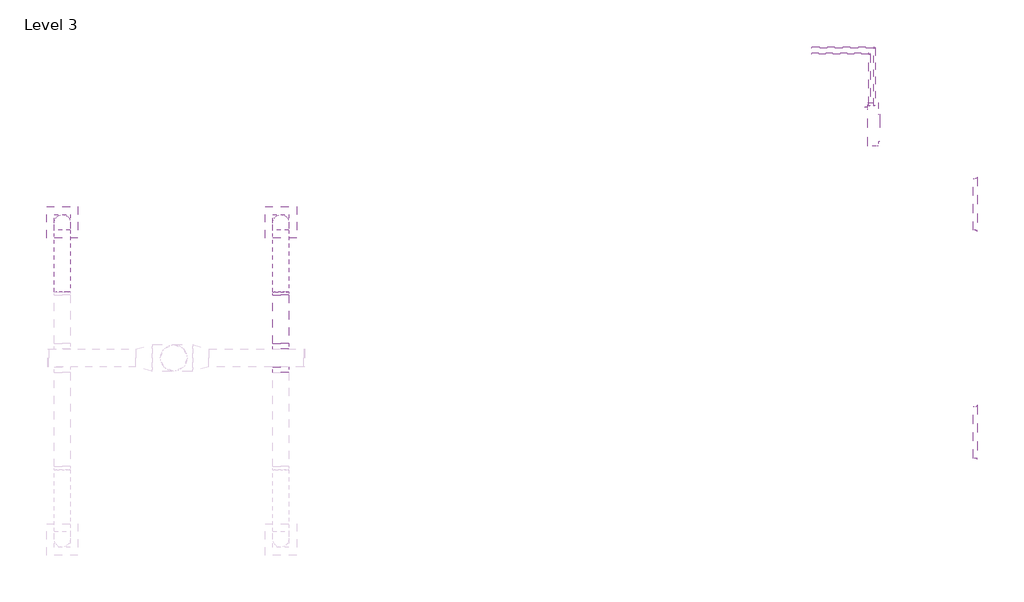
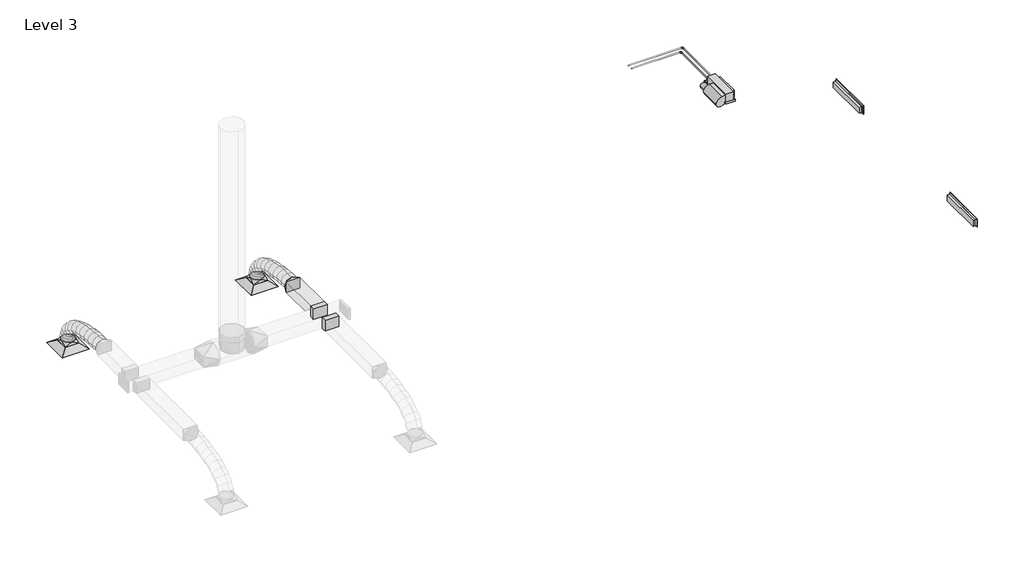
# One storey, part 2 of 2: 5 duct fittings, 4 air terminals, 4 pipe fittings, 4 pipe segments, 3 duct segments, 1 proxy.
"""IFC4 building model written with IfcOpenShell, lengths in millimetres."""

from ifc_helpers import new_model, si_unit, point, frame, frame_2d, origin, place, context, project, spatial, polyline, circle_curve, ellipse_curve, trimmed, segment, composite_curve, outline, extrude, transform, mapped, element, save
from ifc_brep_helpers import plane_surface, cylinder_surface, advanced_brep
from components import extract_grille_600_x_600_face_300_x_300_connection_2ef68f4f, extract_grille_600_x_600_face_300_x_300_connection_8a0e72a1, supply_diffuser_sidewall_standard_1200x300_380ab6ba, supply_diffuser_sidewall_standard_1200x300_04a8d683, fan_coil_unit_horizontal_basic_concealed_04_04d40ada, rectangular_takeoff_standard_6cc22b3a, rectangular_to_round_transition_angle_45_degree_641efff0, rectangular_to_round_transition_angle_45_degree_f64e0d1d, elbow_generic_standard_c06ac706, transition_generic_standard_b317fa81

model = new_model("IFC4")

# Units and contexts
model_context = context("Model", 3, world=origin())
ifc_project = project(units=[si_unit("LENGTHUNIT", "METRE", prefix="MILLI")], contexts=[model_context])

# Site, building, storey
site = spatial("IfcSite", under=ifc_project)
building = spatial("IfcBuilding", under=site)
storey = spatial("IfcBuildingStorey", under=building, Name="Level 3", Elevation=10795.0)

# Air terminals
placement = place(None, origin())
extract_grille_600_x_600_face_300_x_300_connection_shape = extract_grille_600_x_600_face_300_x_300_connection_2ef68f4f(model_context)
element("IfcAirTerminal", 1, ObjectType="Extract Grille : 600 x 600 Face 300 x 300 Connection", at=placement, inside=storey, context=model_context, shape_type="MappedRepresentation", body=[
    mapped(extract_grille_600_x_600_face_300_x_300_connection_shape, transform((-14175.3843533, 1324.0638639, 13795.0), x_axis=(1.0, 0.0, 0.0), y_axis=(0.0, 1.0, 0.0), z_axis=(0.0, 0.0, 1.0))),
])
extract_grille_600_x_600_face_300_x_300_connection_2_shape = extract_grille_600_x_600_face_300_x_300_connection_8a0e72a1(model_context)
element("IfcAirTerminal", 2, ObjectType="Extract Grille : 600 x 600 Face 300 x 300 Connection", at=placement, inside=storey, context=model_context, shape_type="MappedRepresentation", body=[
    mapped(extract_grille_600_x_600_face_300_x_300_connection_2_shape, transform((-9996.8271189, 1324.0638639, 13795.0), x_axis=(-1.0, 0.0, 0.0), y_axis=(0.0, -1.0, 0.0), z_axis=(0.0, 0.0, 1.0))),
])
supply_diffuser_sidewall_standard_1200x300_shape = supply_diffuser_sidewall_standard_1200x300_380ab6ba(model_context)
element("IfcAirTerminal", 3, ObjectType="Supply Diffuser - Sidewall : Standard 1200x300", at=placement, inside=storey, context=model_context, shape_type="MappedRepresentation", body=[
    mapped(supply_diffuser_sidewall_standard_1200x300_shape, transform((3315.8959701, 1666.6648144, 13295.0), x_axis=(0.0, -1.0000000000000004, 0.0), y_axis=(-1.0000000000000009, 0.0, 0.0), z_axis=(0.0, 0.0, -1.0000000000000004))),
])
supply_diffuser_sidewall_standard_1200x300_2_shape = supply_diffuser_sidewall_standard_1200x300_04a8d683(model_context)
element("IfcAirTerminal", 4, ObjectType="Supply Diffuser - Sidewall : Standard 1200x300", at=placement, inside=storey, context=model_context, shape_type="MappedRepresentation", body=[
    mapped(supply_diffuser_sidewall_standard_1200x300_2_shape, transform((3315.8959701, -2695.7858822, 13295.0), x_axis=(0.0, 1.0000000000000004, 0.0), y_axis=(1.0000000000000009, 0.0, 0.0), z_axis=(0.0, 0.0, -1.0000000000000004))),
])

# Proxy
fan_coil_unit_horizontal_basic_concealed_04_shape = fan_coil_unit_horizontal_basic_concealed_04_04d40ada(model_context)
element("IfcBuildingElementProxy", 5, Name="Fan Coil Unit - Horizontal Basic Concealed : 04", ObjectType="Fan Coil Unit - Horizontal Basic Concealed : 04", at=placement, inside=storey, context=model_context, shape_type="MappedRepresentation", body=[
    mapped(fan_coil_unit_horizontal_basic_concealed_04_shape, transform((1304.7163778, 3129.3894661, 13220.0), x_axis=(0.0, 1.0, 0.0), y_axis=(-1.0, 0.0, 0.0), z_axis=(0.0, 0.0, 1.0))),
])

# Duct fittings
rectangular_takeoff_standard_shape = rectangular_takeoff_standard_6cc22b3a(model_context)
element("IfcDuctFitting", 6, ObjectType="Rectangular Takeoff : Standard", at=placement, inside=storey, context=model_context, shape_type="MappedRepresentation", body=[
    mapped(rectangular_takeoff_standard_shape, transform((-9996.8271189, -1098.030611, 14595.0), x_axis=(0.0, 1.0, 0.0), y_axis=(-1.0, 0.0, 0.0), z_axis=(0.0, 0.0, 1.0))),
])
element("IfcDuctFitting", 7, ObjectType="Rectangular Takeoff : Standard", at=placement, inside=storey, context=model_context, shape_type="MappedRepresentation", body=[
    mapped(rectangular_takeoff_standard_shape, transform((-9996.8271189, -1448.030611, 14595.0), x_axis=(0.0, -1.0, 0.0), y_axis=(-1.0, 0.0, 0.0), z_axis=(0.0, 0.0, -1.0))),
])
rectangular_to_round_transition_angle_45_degree_shape = rectangular_to_round_transition_angle_45_degree_641efff0(model_context)
element("IfcDuctFitting", 8, ObjectType="Rectangular to Round Transition - Angle : 45 Degree", at=placement, inside=storey, context=model_context, shape_type="MappedRepresentation", body=[
    mapped(rectangular_to_round_transition_angle_45_degree_shape, transform((-9996.8271189, 1324.0638639, 13895.0), x_axis=(0.0, 0.0, 1.0), y_axis=(-1.0, 0.0, 0.0), z_axis=(0.0, -1.0, 0.0))),
])
element("IfcDuctFitting", 9, ObjectType="Rectangular to Round Transition - Angle : 45 Degree", at=placement, inside=storey, context=model_context, shape_type="MappedRepresentation", body=[
    mapped(rectangular_to_round_transition_angle_45_degree_shape, transform((-14175.3843533, 1324.0638639, 13895.0), x_axis=(0.0, 0.0, 1.0), y_axis=(-1.0, 0.0, 0.0), z_axis=(0.0, -1.0, 0.0))),
])
rectangular_to_round_transition_angle_45_degree_2_shape = rectangular_to_round_transition_angle_45_degree_f64e0d1d(model_context)
element("IfcDuctFitting", 10, ObjectType="Rectangular to Round Transition - Angle : 45 Degree", at=placement, inside=storey, context=model_context, shape_type="MappedRepresentation", body=[
    mapped(rectangular_to_round_transition_angle_45_degree_2_shape, transform((-9996.8271189, -68.3400331, 14595.0), x_axis=(0.0, 1.0, 0.0), y_axis=(-1.0, 0.0, 0.0), z_axis=(0.0, 0.0, 1.0))),
])

# Duct segments
element("IfcDuctSegment", 11, ObjectType="Flex - Round", at=placement, inside=storey, context=model_context, shape_type="AdvancedBrep", body=[
    advanced_brep(
    [(-9846.8271189, 1324.0638639, 13970.0), (-9996.8271189, 1174.0638639, 13970.0), (-10146.8271189, 1324.0638639, 13970.0), (-9996.8271189, 1474.0638639, 13970.0), (-9846.8271189, 1324.0638639, 13993.6443246), (-9996.8271189, 1174.0638639, 13979.0228281), (-10146.8271189, 1324.0638639, 13993.6443246), (-9996.8271189, 1474.0638639, 14008.2658212), (-9846.8271189, 1304.094187, 14095.1041731), (-9996.8271189, 1161.0689872, 14045.0458401), (-10146.8271189, 1304.094187, 14095.1041731), (-9996.8271189, 1447.1193869, 14145.162506), (-9846.8271189, 1247.769561, 14203.5571901), (-9996.8271189, 1124.2488496, 14115.9429823), (-10146.8271189, 1247.769561, 14203.5571901), (-9996.8271189, 1371.2902724, 14291.171398), (-9846.8271189, 1160.4665923, 14296.3570371), (-9996.8271189, 1062.0712865, 14182.0354465), (-10146.8271189, 1160.4665923, 14296.3570371), (-9996.8271189, 1258.8618981, 14410.6786277), (-9846.8271189, 1047.5618877, 14374.5016999), (-9996.8271189, 971.7321554, 14244.561813), (-10146.8271189, 1047.5618877, 14374.5016999), (-9996.8271189, 1123.39162, 14504.4415868), (-9846.8271189, 914.4320538, 14438.9891644), (-9996.8271189, 856.756936, 14300.2552678), (-10146.8271189, 914.4320538, 14438.9891644), (-9996.8271189, 972.1071716, 14577.7230611), (-9846.8271189, 766.4536971, 14490.8174166), (-9996.8271189, 723.0404212, 14347.0884224), (-10146.8271189, 766.4536971, 14490.8174166), (-9996.8271189, 809.8669731, 14634.5464109), (-9846.8271189, 609.0034245, 14530.9844424), (-9996.8271189, 576.9510127, 14384.3571863), (-10146.8271189, 609.0034245, 14530.9844424), (-9996.8271189, 641.0558362, 14677.6116986), (-9846.8271189, 447.4578424, 14560.4882277), (-9996.8271189, 424.7507364, 14412.154197), (-10146.8271189, 447.4578424, 14560.4882277), (-9996.8271189, 470.1649483, 14708.8222585), (-9846.8271189, 287.1935575, 14580.3267585), (-9996.8271189, 272.5304109, 14430.9969954), (-10146.8271189, 287.1935575, 14580.3267585), (-9996.8271189, 301.8567041, 14729.6565216), (-9846.8271189, 133.5871765, 14591.4980206), (-9996.8271189, 126.2384276, 14441.6363066), (-10146.8271189, 133.5871765, 14591.4980206), (-9996.8271189, 140.9359254, 14741.3597346), (-9846.8271189, -4.2753676, 14595.0), (-9996.8271189, -6.1802077, 14445.0), (-10146.8271189, -4.2753676, 14595.0), (-9996.8271189, -2.3705276, 14745.0), (-9846.8271189, -7.984694, 14595.0), (-9996.8271189, -7.984694, 14445.0), (-10146.8271189, -7.984694, 14595.0), (-9996.8271189, -7.984694, 14745.0)],
    [
        (0, 1, circle_curve(frame((-9996.8271189, 1324.0638639, 13970.0), z_axis=(0.0, 0.0, -1.0), x_axis=(1.0, 0.0, 0.0)), 150.0)),
        (1, 2, circle_curve(frame((-9996.8271189, 1324.0638639, 13970.0), z_axis=(0.0, 0.0, -1.0), x_axis=(1.0, 0.0, 0.0)), 150.0)),
        (2, 3, circle_curve(frame((-9996.8271189, 1324.0638639, 13970.0), z_axis=(0.0, 0.0, -1.0), x_axis=(1.0, 0.0, 0.0)), 150.0)),
        (3, 0, circle_curve(frame((-9996.8271189, 1324.0638639, 13970.0), z_axis=(0.0, 0.0, -1.0), x_axis=(1.0, 0.0, 0.0)), 150.0)),
        (0, 4),
        (4, 5, ellipse_curve(frame((-9996.8271189, 1324.0638639, 13993.6443246), z_axis=(0.0, 0.09701682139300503, -0.9952827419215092), x_axis=(0.0, -0.9952827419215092, -0.09701682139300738)), 150.7109424, 150.0)),
        (5, 1),
        (5, 6, ellipse_curve(frame((-9996.8271189, 1324.0638639, 13993.6443246), z_axis=(0.0, 0.09701682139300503, -0.9952827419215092), x_axis=(0.0, -0.9952827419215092, -0.09701682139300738)), 150.7109424, 150.0)),
        (6, 2),
        (6, 7, ellipse_curve(frame((-9996.8271189, 1324.0638639, 13993.6443246), z_axis=(0.0, 0.09701682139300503, -0.9952827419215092), x_axis=(0.0, -0.9952827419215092, -0.09701682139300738)), 150.7109424, 150.0)),
        (7, 3),
        (7, 4, ellipse_curve(frame((-9996.8271189, 1324.0638639, 13993.6443246), z_axis=(0.0, 0.09701682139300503, -0.9952827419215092), x_axis=(0.0, -0.9952827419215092, -0.09701682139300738)), 150.7109424, 150.0)),
        (4, 8),
        (8, 9, ellipse_curve(frame((-9996.8271189, 1304.094187, 14095.1041731), z_axis=(0.0, 0.3303475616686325, -0.943859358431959), x_axis=(0.0, -0.9438593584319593, -0.3303475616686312)), 151.5323216, 150.0)),
        (9, 5),
        (9, 10, ellipse_curve(frame((-9996.8271189, 1304.094187, 14095.1041731), z_axis=(0.0, 0.3303475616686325, -0.943859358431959), x_axis=(0.0, -0.9438593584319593, -0.3303475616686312)), 151.5323216, 150.0)),
        (10, 6),
        (10, 11, ellipse_curve(frame((-9996.8271189, 1304.094187, 14095.1041731), z_axis=(0.0, 0.3303475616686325, -0.943859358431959), x_axis=(0.0, -0.9438593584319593, -0.3303475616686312)), 151.5323216, 150.0)),
        (11, 7),
        (11, 8, ellipse_curve(frame((-9996.8271189, 1304.094187, 14095.1041731), z_axis=(0.0, 0.3303475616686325, -0.943859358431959), x_axis=(0.0, -0.9438593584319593, -0.3303475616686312)), 151.5323216, 150.0)),
        (8, 12),
        (12, 13, ellipse_curve(frame((-9996.8271189, 1247.769561, 14203.5571901), z_axis=(0.0, 0.5785465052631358, -0.8156493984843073), x_axis=(0.0, -0.8156493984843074, -0.5785465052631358)), 151.4384877, 150.0)),
        (13, 9),
        (13, 14, ellipse_curve(frame((-9996.8271189, 1247.769561, 14203.5571901), z_axis=(0.0, 0.5785465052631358, -0.8156493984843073), x_axis=(0.0, -0.8156493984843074, -0.5785465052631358)), 151.4384877, 150.0)),
        (14, 10),
        (14, 15, ellipse_curve(frame((-9996.8271189, 1247.769561, 14203.5571901), z_axis=(0.0, 0.5785465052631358, -0.8156493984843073), x_axis=(0.0, -0.8156493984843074, -0.5785465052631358)), 151.4384877, 150.0)),
        (15, 11),
        (15, 12, ellipse_curve(frame((-9996.8271189, 1247.769561, 14203.5571901), z_axis=(0.0, 0.5785465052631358, -0.8156493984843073), x_axis=(0.0, -0.8156493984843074, -0.5785465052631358)), 151.4384877, 150.0)),
        (12, 16),
        (16, 17, ellipse_curve(frame((-9996.8271189, 1160.4665923, 14296.3570371), z_axis=(0.0, 0.7579270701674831, -0.6523392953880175), x_axis=(0.0, -0.652339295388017, -0.7579270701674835)), 150.8345527, 150.0)),
        (17, 13),
        (17, 18, ellipse_curve(frame((-9996.8271189, 1160.4665923, 14296.3570371), z_axis=(0.0, 0.7579270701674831, -0.6523392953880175), x_axis=(0.0, -0.652339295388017, -0.7579270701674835)), 150.8345527, 150.0)),
        (18, 14),
        (18, 19, ellipse_curve(frame((-9996.8271189, 1160.4665923, 14296.3570371), z_axis=(0.0, 0.7579270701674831, -0.6523392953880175), x_axis=(0.0, -0.652339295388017, -0.7579270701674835)), 150.8345527, 150.0)),
        (19, 15),
        (19, 16, ellipse_curve(frame((-9996.8271189, 1160.4665923, 14296.3570371), z_axis=(0.0, 0.7579270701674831, -0.6523392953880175), x_axis=(0.0, -0.652339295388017, -0.7579270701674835)), 150.8345527, 150.0)),
        (16, 20),
        (20, 21, ellipse_curve(frame((-9996.8271189, 1047.5618877, 14374.5016999), z_axis=(0.0, 0.8636878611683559, -0.5040270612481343), x_axis=(0.0, -0.5040270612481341, -0.863687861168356)), 150.4477401, 150.0)),
        (21, 17),
        (21, 22, ellipse_curve(frame((-9996.8271189, 1047.5618877, 14374.5016999), z_axis=(0.0, 0.8636878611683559, -0.5040270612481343), x_axis=(0.0, -0.5040270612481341, -0.863687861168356)), 150.4477401, 150.0)),
        (22, 18),
        (22, 23, ellipse_curve(frame((-9996.8271189, 1047.5618877, 14374.5016999), z_axis=(0.0, 0.8636878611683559, -0.5040270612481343), x_axis=(0.0, -0.5040270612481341, -0.863687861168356)), 150.4477401, 150.0)),
        (23, 19),
        (23, 20, ellipse_curve(frame((-9996.8271189, 1047.5618877, 14374.5016999), z_axis=(0.0, 0.8636878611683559, -0.5040270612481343), x_axis=(0.0, -0.5040270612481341, -0.863687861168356)), 150.4477401, 150.0)),
        (20, 24),
        (24, 25, ellipse_curve(frame((-9996.8271189, 914.4320538, 14438.9891644), z_axis=(0.0, 0.9233854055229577, -0.3838741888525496), x_axis=(0.0, -0.3838741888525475, -0.9233854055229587)), 150.2448445, 150.0)),
        (25, 21),
        (25, 26, ellipse_curve(frame((-9996.8271189, 914.4320538, 14438.9891644), z_axis=(0.0, 0.9233854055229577, -0.3838741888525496), x_axis=(0.0, -0.3838741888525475, -0.9233854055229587)), 150.2448445, 150.0)),
        (26, 22),
        (26, 27, ellipse_curve(frame((-9996.8271189, 914.4320538, 14438.9891644), z_axis=(0.0, 0.9233854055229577, -0.3838741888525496), x_axis=(0.0, -0.3838741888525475, -0.9233854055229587)), 150.2448445, 150.0)),
        (27, 23),
        (27, 24, ellipse_curve(frame((-9996.8271189, 914.4320538, 14438.9891644), z_axis=(0.0, 0.9233854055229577, -0.3838741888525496), x_axis=(0.0, -0.3838741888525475, -0.9233854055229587)), 150.2448445, 150.0)),
        (24, 28),
        (28, 29, ellipse_curve(frame((-9996.8271189, 766.4536971, 14490.8174166), z_axis=(0.0, 0.957284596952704, -0.28914736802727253), x_axis=(0.0, -0.28914736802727, -0.9572845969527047)), 150.1423868, 150.0)),
        (29, 25),
        (29, 30, ellipse_curve(frame((-9996.8271189, 766.4536971, 14490.8174166), z_axis=(0.0, 0.957284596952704, -0.28914736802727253), x_axis=(0.0, -0.28914736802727, -0.9572845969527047)), 150.1423868, 150.0)),
        (30, 26),
        (30, 31, ellipse_curve(frame((-9996.8271189, 766.4536971, 14490.8174166), z_axis=(0.0, 0.957284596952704, -0.28914736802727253), x_axis=(0.0, -0.28914736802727, -0.9572845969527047)), 150.1423868, 150.0)),
        (31, 27),
        (31, 28, ellipse_curve(frame((-9996.8271189, 766.4536971, 14490.8174166), z_axis=(0.0, 0.957284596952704, -0.28914736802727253), x_axis=(0.0, -0.28914736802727, -0.9572845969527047)), 150.1423868, 150.0)),
        (28, 32),
        (32, 33, ellipse_curve(frame((-9996.8271189, 609.0034245, 14530.9844424), z_axis=(0.0, 0.9769310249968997, -0.21355508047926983), x_axis=(0.0, -0.21355508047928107, -0.976931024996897)), 150.089671, 150.0)),
        (33, 29),
        (33, 34, ellipse_curve(frame((-9996.8271189, 609.0034245, 14530.9844424), z_axis=(0.0, 0.9769310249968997, -0.21355508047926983), x_axis=(0.0, -0.21355508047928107, -0.976931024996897)), 150.089671, 150.0)),
        (34, 30),
        (34, 35, ellipse_curve(frame((-9996.8271189, 609.0034245, 14530.9844424), z_axis=(0.0, 0.9769310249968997, -0.21355508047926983), x_axis=(0.0, -0.21355508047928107, -0.976931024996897)), 150.089671, 150.0)),
        (35, 31),
        (35, 32, ellipse_curve(frame((-9996.8271189, 609.0034245, 14530.9844424), z_axis=(0.0, 0.9769310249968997, -0.21355508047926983), x_axis=(0.0, -0.21355508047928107, -0.976931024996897)), 150.089671, 150.0)),
        (32, 36),
        (36, 37, ellipse_curve(frame((-9996.8271189, 447.4578424, 14560.4882277), z_axis=(0.0, 0.9884851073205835, -0.15131818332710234), x_axis=(0.0, -0.15131818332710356, -0.9884851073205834)), 150.0619783, 150.0)),
        (37, 33),
        (37, 38, ellipse_curve(frame((-9996.8271189, 447.4578424, 14560.4882277), z_axis=(0.0, 0.9884851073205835, -0.15131818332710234), x_axis=(0.0, -0.15131818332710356, -0.9884851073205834)), 150.0619783, 150.0)),
        (38, 34),
        (38, 39, ellipse_curve(frame((-9996.8271189, 447.4578424, 14560.4882277), z_axis=(0.0, 0.9884851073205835, -0.15131818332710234), x_axis=(0.0, -0.15131818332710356, -0.9884851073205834)), 150.0619783, 150.0)),
        (39, 35),
        (39, 36, ellipse_curve(frame((-9996.8271189, 447.4578424, 14560.4882277), z_axis=(0.0, 0.9884851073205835, -0.15131818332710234), x_axis=(0.0, -0.15131818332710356, -0.9884851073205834)), 150.0619783, 150.0)),
        (36, 40),
        (40, 41, ellipse_curve(frame((-9996.8271189, 287.1935575, 14580.3267585), z_axis=(0.0, 0.9952136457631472, -0.09772307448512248), x_axis=(0.0, -0.09772307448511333, -0.9952136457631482)), 150.0479457, 150.0)),
        (41, 37),
        (41, 42, ellipse_curve(frame((-9996.8271189, 287.1935575, 14580.3267585), z_axis=(0.0, 0.9952136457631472, -0.09772307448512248), x_axis=(0.0, -0.09772307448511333, -0.9952136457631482)), 150.0479457, 150.0)),
        (42, 38),
        (42, 43, ellipse_curve(frame((-9996.8271189, 287.1935575, 14580.3267585), z_axis=(0.0, 0.9952136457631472, -0.09772307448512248), x_axis=(0.0, -0.09772307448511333, -0.9952136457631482)), 150.0479457, 150.0)),
        (43, 39),
        (43, 40, ellipse_curve(frame((-9996.8271189, 287.1935575, 14580.3267585), z_axis=(0.0, 0.9952136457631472, -0.09772307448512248), x_axis=(0.0, -0.09772307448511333, -0.9952136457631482)), 150.0479457, 150.0)),
        (40, 44),
        (44, 45, ellipse_curve(frame((-9996.8271189, 133.5871765, 14591.4980206), z_axis=(0.0, 0.9987998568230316, -0.048978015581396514), x_axis=(0.0, -0.048978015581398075, -0.9987998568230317)), 150.0417856, 150.0)),
        (45, 41),
        (45, 46, ellipse_curve(frame((-9996.8271189, 133.5871765, 14591.4980206), z_axis=(0.0, 0.9987998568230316, -0.048978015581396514), x_axis=(0.0, -0.048978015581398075, -0.9987998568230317)), 150.0417856, 150.0)),
        (46, 42),
        (46, 47, ellipse_curve(frame((-9996.8271189, 133.5871765, 14591.4980206), z_axis=(0.0, 0.9987998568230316, -0.048978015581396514), x_axis=(0.0, -0.048978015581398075, -0.9987998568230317)), 150.0417856, 150.0)),
        (47, 43),
        (47, 44, ellipse_curve(frame((-9996.8271189, 133.5871765, 14591.4980206), z_axis=(0.0, 0.9987998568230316, -0.048978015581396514), x_axis=(0.0, -0.048978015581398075, -0.9987998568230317)), 150.0417856, 150.0)),
        (44, 48),
        (48, 49, ellipse_curve(frame((-9996.8271189, -4.2753676, 14595.0), z_axis=(0.0, 0.9999193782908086, -0.012697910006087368), x_axis=(0.0, -0.012697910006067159, -0.9999193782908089)), 150.0120942, 150.0)),
        (49, 45),
        (49, 50, ellipse_curve(frame((-9996.8271189, -4.2753676, 14595.0), z_axis=(0.0, 0.9999193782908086, -0.012697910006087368), x_axis=(0.0, -0.012697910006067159, -0.9999193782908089)), 150.0120942, 150.0)),
        (50, 46),
        (50, 51, ellipse_curve(frame((-9996.8271189, -4.2753676, 14595.0), z_axis=(0.0, 0.9999193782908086, -0.012697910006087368), x_axis=(0.0, -0.012697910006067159, -0.9999193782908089)), 150.0120942, 150.0)),
        (51, 47),
        (51, 48, ellipse_curve(frame((-9996.8271189, -4.2753676, 14595.0), z_axis=(0.0, 0.9999193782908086, -0.012697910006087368), x_axis=(0.0, -0.012697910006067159, -0.9999193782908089)), 150.0120942, 150.0)),
        (48, 52),
        (52, 53, circle_curve(frame((-9996.8271189, -7.984694, 14595.0), z_axis=(0.0, 1.0, 0.0), x_axis=(1.0, 0.0, 0.0)), 150.0)),
        (53, 49),
        (53, 54, circle_curve(frame((-9996.8271189, -7.984694, 14595.0), z_axis=(0.0, 1.0, 0.0), x_axis=(1.0, 0.0, 0.0)), 150.0)),
        (54, 50),
        (54, 55, circle_curve(frame((-9996.8271189, -7.984694, 14595.0), z_axis=(0.0, 1.0, 0.0), x_axis=(1.0, 0.0, 0.0)), 150.0)),
        (55, 51),
        (55, 52, circle_curve(frame((-9996.8271189, -7.984694, 14595.0), z_axis=(0.0, 1.0, 0.0), x_axis=(1.0, 0.0, 0.0)), 150.0)),
    ],
    [
        plane_surface(frame((-9996.8271189, 1174.0638639, 13970.0), z_axis=(0.0, 0.0, -1.0), x_axis=(1.0, 0.0, 0.0))),
        cylinder_surface(frame((-9996.8271189, 1324.0638639, 13970.0), z_axis=(0.0, 0.0, -1.0), x_axis=(1.0, 0.0, 0.0)), 150.0),
        cylinder_surface(frame((-9996.8271189, 1324.0638639, 13993.6443246), z_axis=(0.0, 0.1931183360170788, -0.9811754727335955), x_axis=(1.0, 0.0, 0.0)), 150.0),
        cylinder_surface(frame((-9996.8271189, 1304.094187, 14095.1041731), z_axis=(0.0, 0.4608957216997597, -0.887454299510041), x_axis=(1.0, 0.0, 0.0)), 150.0),
        cylinder_surface(frame((-9996.8271189, 1247.769561, 14203.5571901), z_axis=(0.0, 0.6852062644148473, -0.7283490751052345), x_axis=(1.0, 0.0, 0.0)), 150.0),
        cylinder_surface(frame((-9996.8271189, 1160.4665923, 14296.3570371), z_axis=(0.0, 0.8222608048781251, -0.5691108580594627), x_axis=(1.0, 0.0, 0.0)), 150.0),
        cylinder_surface(frame((-9996.8271189, 1047.5618877, 14374.5016999), z_axis=(0.0, 0.8999741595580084, -0.43594324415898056), x_axis=(1.0, 0.0, 0.0)), 150.0),
        cylinder_surface(frame((-9996.8271189, 914.4320538, 14438.9891644), z_axis=(0.0, 0.9437870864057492, -0.33055398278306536), x_axis=(1.0, 0.0, 0.0)), 150.0),
        cylinder_surface(frame((-9996.8271189, 766.4536971, 14490.8174166), z_axis=(0.0, 0.9689664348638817, -0.24719233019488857), x_axis=(1.0, 0.0, 0.0)), 150.0),
        cylinder_surface(frame((-9996.8271189, 609.0034245, 14530.9844424), z_axis=(0.0, 0.9837282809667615, -0.17966265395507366), x_axis=(1.0, 0.0, 0.0)), 150.0),
        cylinder_surface(frame((-9996.8271189, 447.4578424, 14560.4882277), z_axis=(0.0, 0.9924254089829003, -0.12284871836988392), x_axis=(1.0, 0.0, 0.0)), 150.0),
        cylinder_surface(frame((-9996.8271189, 287.1935575, 14580.3267585), z_axis=(0.0, 0.997365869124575, -0.07253497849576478), x_axis=(1.0, 0.0, 0.0)), 150.0),
        cylinder_surface(frame((-9996.8271189, 133.5871765, 14591.4980206), z_axis=(0.0, 0.9996775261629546, -0.02539377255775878), x_axis=(1.0, 0.0, 0.0)), 150.0),
        cylinder_surface(frame((-9996.8271189, -4.2753676, 14595.0), z_axis=(0.0, 1.0, 0.0), x_axis=(1.0, 0.0, 0.0)), 150.0),
        plane_surface(frame((-10146.8271189, -7.984694, 14595.0), z_axis=(0.0, -1.0, 0.0), x_axis=(0.0, 0.0, -1.0))),
    ],
    [
        (0, [[1, 2, 3, 4]]),
        (1, [[-1, 5, 6, 7]]),
        (1, [[-2, -7, 8, 9]]),
        (1, [[-3, -9, 10, 11]]),
        (1, [[-4, -11, 12, -5]]),
        (2, [[-6, 13, 14, 15]]),
        (2, [[-8, -15, 16, 17]]),
        (2, [[-10, -17, 18, 19]]),
        (2, [[-12, -19, 20, -13]]),
        (3, [[-14, 21, 22, 23]]),
        (3, [[-16, -23, 24, 25]]),
        (3, [[-18, -25, 26, 27]]),
        (3, [[-20, -27, 28, -21]]),
        (4, [[-22, 29, 30, 31]]),
        (4, [[-24, -31, 32, 33]]),
        (4, [[-26, -33, 34, 35]]),
        (4, [[-28, -35, 36, -29]]),
        (5, [[-30, 37, 38, 39]]),
        (5, [[-32, -39, 40, 41]]),
        (5, [[-34, -41, 42, 43]]),
        (5, [[-36, -43, 44, -37]]),
        (6, [[-38, 45, 46, 47]]),
        (6, [[-40, -47, 48, 49]]),
        (6, [[-42, -49, 50, 51]]),
        (6, [[-44, -51, 52, -45]]),
        (7, [[-46, 53, 54, 55]]),
        (7, [[-48, -55, 56, 57]]),
        (7, [[-50, -57, 58, 59]]),
        (7, [[-52, -59, 60, -53]]),
        (8, [[-54, 61, 62, 63]]),
        (8, [[-56, -63, 64, 65]]),
        (8, [[-58, -65, 66, 67]]),
        (8, [[-60, -67, 68, -61]]),
        (9, [[-62, 69, 70, 71]]),
        (9, [[-64, -71, 72, 73]]),
        (9, [[-66, -73, 74, 75]]),
        (9, [[-68, -75, 76, -69]]),
        (10, [[-70, 77, 78, 79]]),
        (10, [[-72, -79, 80, 81]]),
        (10, [[-74, -81, 82, 83]]),
        (10, [[-76, -83, 84, -77]]),
        (11, [[-78, 85, 86, 87]]),
        (11, [[-80, -87, 88, 89]]),
        (11, [[-82, -89, 90, 91]]),
        (11, [[-84, -91, 92, -85]]),
        (12, [[-86, 93, 94, 95]]),
        (12, [[-88, -95, 96, 97]]),
        (12, [[-90, -97, 98, 99]]),
        (12, [[-92, -99, 100, -93]]),
        (13, [[-94, 101, 102, 103]]),
        (13, [[-96, -103, 104, 105]]),
        (13, [[-98, -105, 106, 107]]),
        (13, [[-100, -107, 108, -101]]),
        (14, [[-108, -106, -104, -102]]),
    ],
),
])
element("IfcDuctSegment", 12, ObjectType="Flex - Round", at=placement, inside=storey, context=model_context, shape_type="AdvancedBrep", body=[
    advanced_brep(
    [(-14025.3843533, 1324.0638639, 13970.0), (-14175.3843533, 1174.0638639, 13970.0), (-14325.3843533, 1324.0638639, 13970.0), (-14175.3843533, 1474.0638639, 13970.0), (-14025.3843533, 1324.0638639, 13993.6443246), (-14175.3843533, 1174.0638639, 13979.0228281), (-14325.3843533, 1324.0638639, 13993.6443246), (-14175.3843533, 1474.0638639, 14008.2658212), (-14025.3843533, 1304.094187, 14095.1041731), (-14175.3843533, 1161.0689872, 14045.0458401), (-14325.3843533, 1304.094187, 14095.1041731), (-14175.3843533, 1447.1193869, 14145.162506), (-14025.3843533, 1247.769561, 14203.5571901), (-14175.3843533, 1124.2488496, 14115.9429823), (-14325.3843533, 1247.769561, 14203.5571901), (-14175.3843533, 1371.2902724, 14291.171398), (-14025.3843533, 1160.4665923, 14296.3570371), (-14175.3843533, 1062.0712865, 14182.0354465), (-14325.3843533, 1160.4665923, 14296.3570371), (-14175.3843533, 1258.8618981, 14410.6786277), (-14025.3843533, 1047.5618877, 14374.5016999), (-14175.3843533, 971.7321554, 14244.561813), (-14325.3843533, 1047.5618877, 14374.5016999), (-14175.3843533, 1123.39162, 14504.4415868), (-14025.3843533, 914.4320538, 14438.9891644), (-14175.3843533, 856.756936, 14300.2552678), (-14325.3843533, 914.4320538, 14438.9891644), (-14175.3843533, 972.1071716, 14577.7230611), (-14025.3843533, 766.4536971, 14490.8174166), (-14175.3843533, 723.0404212, 14347.0884224), (-14325.3843533, 766.4536971, 14490.8174166), (-14175.3843533, 809.8669731, 14634.5464109), (-14025.3843533, 609.0034245, 14530.9844424), (-14175.3843533, 576.9510127, 14384.3571863), (-14325.3843533, 609.0034245, 14530.9844424), (-14175.3843533, 641.0558362, 14677.6116986), (-14025.3843533, 447.4578424, 14560.4882277), (-14175.3843533, 424.7507364, 14412.154197), (-14325.3843533, 447.4578424, 14560.4882277), (-14175.3843533, 470.1649483, 14708.8222585), (-14025.3843533, 287.1935575, 14580.3267585), (-14175.3843533, 272.5304109, 14430.9969954), (-14325.3843533, 287.1935575, 14580.3267585), (-14175.3843533, 301.8567041, 14729.6565216), (-14025.3843533, 133.5871765, 14591.4980206), (-14175.3843533, 126.2384276, 14441.6363066), (-14325.3843533, 133.5871765, 14591.4980206), (-14175.3843533, 140.9359254, 14741.3597346), (-14025.3843533, -4.2753676, 14595.0), (-14175.3843533, -6.1802077, 14445.0), (-14325.3843533, -4.2753676, 14595.0), (-14175.3843533, -2.3705276, 14745.0), (-14025.3843533, -7.984694, 14595.0), (-14175.3843533, -7.984694, 14445.0), (-14325.3843533, -7.984694, 14595.0), (-14175.3843533, -7.984694, 14745.0)],
    [
        (0, 1, circle_curve(frame((-14175.3843533, 1324.0638639, 13970.0), z_axis=(0.0, 0.0, -1.0), x_axis=(1.0, 0.0, 0.0)), 150.0)),
        (1, 2, circle_curve(frame((-14175.3843533, 1324.0638639, 13970.0), z_axis=(0.0, 0.0, -1.0), x_axis=(1.0, 0.0, 0.0)), 150.0)),
        (2, 3, circle_curve(frame((-14175.3843533, 1324.0638639, 13970.0), z_axis=(0.0, 0.0, -1.0), x_axis=(1.0, 0.0, 0.0)), 150.0)),
        (3, 0, circle_curve(frame((-14175.3843533, 1324.0638639, 13970.0), z_axis=(0.0, 0.0, -1.0), x_axis=(1.0, 0.0, 0.0)), 150.0)),
        (0, 4),
        (4, 5, ellipse_curve(frame((-14175.3843533, 1324.0638639, 13993.6443246), z_axis=(0.0, 0.09701682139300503, -0.9952827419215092), x_axis=(0.0, -0.9952827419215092, -0.09701682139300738)), 150.7109424, 150.0)),
        (5, 1),
        (5, 6, ellipse_curve(frame((-14175.3843533, 1324.0638639, 13993.6443246), z_axis=(0.0, 0.09701682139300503, -0.9952827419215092), x_axis=(0.0, -0.9952827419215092, -0.09701682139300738)), 150.7109424, 150.0)),
        (6, 2),
        (6, 7, ellipse_curve(frame((-14175.3843533, 1324.0638639, 13993.6443246), z_axis=(0.0, 0.09701682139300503, -0.9952827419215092), x_axis=(0.0, -0.9952827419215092, -0.09701682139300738)), 150.7109424, 150.0)),
        (7, 3),
        (7, 4, ellipse_curve(frame((-14175.3843533, 1324.0638639, 13993.6443246), z_axis=(0.0, 0.09701682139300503, -0.9952827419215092), x_axis=(0.0, -0.9952827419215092, -0.09701682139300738)), 150.7109424, 150.0)),
        (4, 8),
        (8, 9, ellipse_curve(frame((-14175.3843533, 1304.094187, 14095.1041731), z_axis=(0.0, 0.3303475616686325, -0.943859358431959), x_axis=(0.0, -0.9438593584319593, -0.3303475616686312)), 151.5323216, 150.0)),
        (9, 5),
        (9, 10, ellipse_curve(frame((-14175.3843533, 1304.094187, 14095.1041731), z_axis=(0.0, 0.3303475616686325, -0.943859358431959), x_axis=(0.0, -0.9438593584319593, -0.3303475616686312)), 151.5323216, 150.0)),
        (10, 6),
        (10, 11, ellipse_curve(frame((-14175.3843533, 1304.094187, 14095.1041731), z_axis=(0.0, 0.3303475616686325, -0.943859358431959), x_axis=(0.0, -0.9438593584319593, -0.3303475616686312)), 151.5323216, 150.0)),
        (11, 7),
        (11, 8, ellipse_curve(frame((-14175.3843533, 1304.094187, 14095.1041731), z_axis=(0.0, 0.3303475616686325, -0.943859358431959), x_axis=(0.0, -0.9438593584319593, -0.3303475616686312)), 151.5323216, 150.0)),
        (8, 12),
        (12, 13, ellipse_curve(frame((-14175.3843533, 1247.769561, 14203.5571901), z_axis=(0.0, 0.5785465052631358, -0.8156493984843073), x_axis=(0.0, -0.8156493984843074, -0.5785465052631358)), 151.4384877, 150.0)),
        (13, 9),
        (13, 14, ellipse_curve(frame((-14175.3843533, 1247.769561, 14203.5571901), z_axis=(0.0, 0.5785465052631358, -0.8156493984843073), x_axis=(0.0, -0.8156493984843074, -0.5785465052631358)), 151.4384877, 150.0)),
        (14, 10),
        (14, 15, ellipse_curve(frame((-14175.3843533, 1247.769561, 14203.5571901), z_axis=(0.0, 0.5785465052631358, -0.8156493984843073), x_axis=(0.0, -0.8156493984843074, -0.5785465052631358)), 151.4384877, 150.0)),
        (15, 11),
        (15, 12, ellipse_curve(frame((-14175.3843533, 1247.769561, 14203.5571901), z_axis=(0.0, 0.5785465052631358, -0.8156493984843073), x_axis=(0.0, -0.8156493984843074, -0.5785465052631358)), 151.4384877, 150.0)),
        (12, 16),
        (16, 17, ellipse_curve(frame((-14175.3843533, 1160.4665923, 14296.3570371), z_axis=(0.0, 0.7579270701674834, -0.6523392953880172), x_axis=(0.0, -0.6523392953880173, -0.7579270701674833)), 150.8345527, 150.0)),
        (17, 13),
        (17, 18, ellipse_curve(frame((-14175.3843533, 1160.4665923, 14296.3570371), z_axis=(0.0, 0.7579270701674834, -0.6523392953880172), x_axis=(0.0, -0.6523392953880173, -0.7579270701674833)), 150.8345527, 150.0)),
        (18, 14),
        (18, 19, ellipse_curve(frame((-14175.3843533, 1160.4665923, 14296.3570371), z_axis=(0.0, 0.7579270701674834, -0.6523392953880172), x_axis=(0.0, -0.6523392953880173, -0.7579270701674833)), 150.8345527, 150.0)),
        (19, 15),
        (19, 16, ellipse_curve(frame((-14175.3843533, 1160.4665923, 14296.3570371), z_axis=(0.0, 0.7579270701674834, -0.6523392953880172), x_axis=(0.0, -0.6523392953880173, -0.7579270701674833)), 150.8345527, 150.0)),
        (16, 20),
        (20, 21, ellipse_curve(frame((-14175.3843533, 1047.5618877, 14374.5016999), z_axis=(0.0, 0.8636878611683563, -0.5040270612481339), x_axis=(0.0, -0.5040270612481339, -0.8636878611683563)), 150.4477401, 150.0)),
        (21, 17),
        (21, 22, ellipse_curve(frame((-14175.3843533, 1047.5618877, 14374.5016999), z_axis=(0.0, 0.8636878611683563, -0.5040270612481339), x_axis=(0.0, -0.5040270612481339, -0.8636878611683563)), 150.4477401, 150.0)),
        (22, 18),
        (22, 23, ellipse_curve(frame((-14175.3843533, 1047.5618877, 14374.5016999), z_axis=(0.0, 0.8636878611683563, -0.5040270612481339), x_axis=(0.0, -0.5040270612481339, -0.8636878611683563)), 150.4477401, 150.0)),
        (23, 19),
        (23, 20, ellipse_curve(frame((-14175.3843533, 1047.5618877, 14374.5016999), z_axis=(0.0, 0.8636878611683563, -0.5040270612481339), x_axis=(0.0, -0.5040270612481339, -0.8636878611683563)), 150.4477401, 150.0)),
        (20, 24),
        (24, 25, ellipse_curve(frame((-14175.3843533, 914.4320538, 14438.9891644), z_axis=(0.0, 0.9233854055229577, -0.3838741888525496), x_axis=(0.0, -0.38387418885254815, -0.9233854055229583)), 150.2448445, 150.0)),
        (25, 21),
        (25, 26, ellipse_curve(frame((-14175.3843533, 914.4320538, 14438.9891644), z_axis=(0.0, 0.9233854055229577, -0.3838741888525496), x_axis=(0.0, -0.38387418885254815, -0.9233854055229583)), 150.2448445, 150.0)),
        (26, 22),
        (26, 27, ellipse_curve(frame((-14175.3843533, 914.4320538, 14438.9891644), z_axis=(0.0, 0.9233854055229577, -0.3838741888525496), x_axis=(0.0, -0.38387418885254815, -0.9233854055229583)), 150.2448445, 150.0)),
        (27, 23),
        (27, 24, ellipse_curve(frame((-14175.3843533, 914.4320538, 14438.9891644), z_axis=(0.0, 0.9233854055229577, -0.3838741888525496), x_axis=(0.0, -0.38387418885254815, -0.9233854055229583)), 150.2448445, 150.0)),
        (24, 28),
        (28, 29, ellipse_curve(frame((-14175.3843533, 766.4536971, 14490.8174166), z_axis=(0.0, 0.9572845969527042, -0.28914736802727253), x_axis=(0.0, -0.2891473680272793, -0.957284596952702)), 150.1423868, 150.0)),
        (29, 25),
        (29, 30, ellipse_curve(frame((-14175.3843533, 766.4536971, 14490.8174166), z_axis=(0.0, 0.9572845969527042, -0.28914736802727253), x_axis=(0.0, -0.2891473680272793, -0.957284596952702)), 150.1423868, 150.0)),
        (30, 26),
        (30, 31, ellipse_curve(frame((-14175.3843533, 766.4536971, 14490.8174166), z_axis=(0.0, 0.9572845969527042, -0.28914736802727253), x_axis=(0.0, -0.2891473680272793, -0.957284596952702)), 150.1423868, 150.0)),
        (31, 27),
        (31, 28, ellipse_curve(frame((-14175.3843533, 766.4536971, 14490.8174166), z_axis=(0.0, 0.9572845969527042, -0.28914736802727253), x_axis=(0.0, -0.2891473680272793, -0.957284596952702)), 150.1423868, 150.0)),
        (28, 32),
        (32, 33, ellipse_curve(frame((-14175.3843533, 609.0034245, 14530.9844424), z_axis=(0.0, 0.9769310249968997, -0.21355508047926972), x_axis=(0.0, -0.21355508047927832, -0.9769310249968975)), 150.089671, 150.0)),
        (33, 29),
        (33, 34, ellipse_curve(frame((-14175.3843533, 609.0034245, 14530.9844424), z_axis=(0.0, 0.9769310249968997, -0.21355508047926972), x_axis=(0.0, -0.21355508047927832, -0.9769310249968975)), 150.089671, 150.0)),
        (34, 30),
        (34, 35, ellipse_curve(frame((-14175.3843533, 609.0034245, 14530.9844424), z_axis=(0.0, 0.9769310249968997, -0.21355508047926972), x_axis=(0.0, -0.21355508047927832, -0.9769310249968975)), 150.089671, 150.0)),
        (35, 31),
        (35, 32, ellipse_curve(frame((-14175.3843533, 609.0034245, 14530.9844424), z_axis=(0.0, 0.9769310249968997, -0.21355508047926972), x_axis=(0.0, -0.21355508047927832, -0.9769310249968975)), 150.089671, 150.0)),
        (32, 36),
        (36, 37, ellipse_curve(frame((-14175.3843533, 447.4578424, 14560.4882277), z_axis=(0.0, 0.9884851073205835, -0.15131818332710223), x_axis=(0.0, -0.1513181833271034, -0.9884851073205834)), 150.0619783, 150.0)),
        (37, 33),
        (37, 38, ellipse_curve(frame((-14175.3843533, 447.4578424, 14560.4882277), z_axis=(0.0, 0.9884851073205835, -0.15131818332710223), x_axis=(0.0, -0.1513181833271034, -0.9884851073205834)), 150.0619783, 150.0)),
        (38, 34),
        (38, 39, ellipse_curve(frame((-14175.3843533, 447.4578424, 14560.4882277), z_axis=(0.0, 0.9884851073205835, -0.15131818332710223), x_axis=(0.0, -0.1513181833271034, -0.9884851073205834)), 150.0619783, 150.0)),
        (39, 35),
        (39, 36, ellipse_curve(frame((-14175.3843533, 447.4578424, 14560.4882277), z_axis=(0.0, 0.9884851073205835, -0.15131818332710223), x_axis=(0.0, -0.1513181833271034, -0.9884851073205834)), 150.0619783, 150.0)),
        (36, 40),
        (40, 41, ellipse_curve(frame((-14175.3843533, 287.1935575, 14580.3267585), z_axis=(0.0, 0.9952136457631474, -0.09772307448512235), x_axis=(0.0, -0.0977230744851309, -0.9952136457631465)), 150.0479457, 150.0)),
        (41, 37),
        (41, 42, ellipse_curve(frame((-14175.3843533, 287.1935575, 14580.3267585), z_axis=(0.0, 0.9952136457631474, -0.09772307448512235), x_axis=(0.0, -0.0977230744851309, -0.9952136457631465)), 150.0479457, 150.0)),
        (42, 38),
        (42, 43, ellipse_curve(frame((-14175.3843533, 287.1935575, 14580.3267585), z_axis=(0.0, 0.9952136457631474, -0.09772307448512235), x_axis=(0.0, -0.0977230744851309, -0.9952136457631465)), 150.0479457, 150.0)),
        (43, 39),
        (43, 40, ellipse_curve(frame((-14175.3843533, 287.1935575, 14580.3267585), z_axis=(0.0, 0.9952136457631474, -0.09772307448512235), x_axis=(0.0, -0.0977230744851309, -0.9952136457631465)), 150.0479457, 150.0)),
        (40, 44),
        (44, 45, ellipse_curve(frame((-14175.3843533, 133.5871765, 14591.4980206), z_axis=(0.0, 0.9987998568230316, -0.048978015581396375), x_axis=(0.0, -0.048978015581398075, -0.9987998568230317)), 150.0417856, 150.0)),
        (45, 41),
        (45, 46, ellipse_curve(frame((-14175.3843533, 133.5871765, 14591.4980206), z_axis=(0.0, 0.9987998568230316, -0.048978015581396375), x_axis=(0.0, -0.048978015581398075, -0.9987998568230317)), 150.0417856, 150.0)),
        (46, 42),
        (46, 47, ellipse_curve(frame((-14175.3843533, 133.5871765, 14591.4980206), z_axis=(0.0, 0.9987998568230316, -0.048978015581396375), x_axis=(0.0, -0.048978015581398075, -0.9987998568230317)), 150.0417856, 150.0)),
        (47, 43),
        (47, 44, ellipse_curve(frame((-14175.3843533, 133.5871765, 14591.4980206), z_axis=(0.0, 0.9987998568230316, -0.048978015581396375), x_axis=(0.0, -0.048978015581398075, -0.9987998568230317)), 150.0417856, 150.0)),
        (44, 48),
        (48, 49, ellipse_curve(frame((-14175.3843533, -4.2753676, 14595.0), z_axis=(0.0, 0.9999193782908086, -0.012697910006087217), x_axis=(0.0, -0.01269791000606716, -0.999919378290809)), 150.0120942, 150.0)),
        (49, 45),
        (49, 50, ellipse_curve(frame((-14175.3843533, -4.2753676, 14595.0), z_axis=(0.0, 0.9999193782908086, -0.012697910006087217), x_axis=(0.0, -0.01269791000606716, -0.999919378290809)), 150.0120942, 150.0)),
        (50, 46),
        (50, 51, ellipse_curve(frame((-14175.3843533, -4.2753676, 14595.0), z_axis=(0.0, 0.9999193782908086, -0.012697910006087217), x_axis=(0.0, -0.01269791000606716, -0.999919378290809)), 150.0120942, 150.0)),
        (51, 47),
        (51, 48, ellipse_curve(frame((-14175.3843533, -4.2753676, 14595.0), z_axis=(0.0, 0.9999193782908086, -0.012697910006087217), x_axis=(0.0, -0.01269791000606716, -0.999919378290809)), 150.0120942, 150.0)),
        (48, 52),
        (52, 53, circle_curve(frame((-14175.3843533, -7.984694, 14595.0), z_axis=(0.0, 1.0, 0.0), x_axis=(1.0, 0.0, 0.0)), 150.0)),
        (53, 49),
        (53, 54, circle_curve(frame((-14175.3843533, -7.984694, 14595.0), z_axis=(0.0, 1.0, 0.0), x_axis=(1.0, 0.0, 0.0)), 150.0)),
        (54, 50),
        (54, 55, circle_curve(frame((-14175.3843533, -7.984694, 14595.0), z_axis=(0.0, 1.0, 0.0), x_axis=(1.0, 0.0, 0.0)), 150.0)),
        (55, 51),
        (55, 52, circle_curve(frame((-14175.3843533, -7.984694, 14595.0), z_axis=(0.0, 1.0, 0.0), x_axis=(1.0, 0.0, 0.0)), 150.0)),
    ],
    [
        plane_surface(frame((-14175.3843533, 1174.0638639, 13970.0), z_axis=(0.0, 0.0, -1.0), x_axis=(1.0, 0.0, 0.0))),
        cylinder_surface(frame((-14175.3843533, 1324.0638639, 13970.0), z_axis=(0.0, 0.0, -1.0), x_axis=(1.0, 0.0, 0.0)), 150.0),
        cylinder_surface(frame((-14175.3843533, 1324.0638639, 13993.6443246), z_axis=(0.0, 0.1931183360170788, -0.9811754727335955), x_axis=(1.0, 0.0, 0.0)), 150.0),
        cylinder_surface(frame((-14175.3843533, 1304.094187, 14095.1041731), z_axis=(0.0, 0.4608957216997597, -0.887454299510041), x_axis=(1.0, 0.0, 0.0)), 150.0),
        cylinder_surface(frame((-14175.3843533, 1247.769561, 14203.5571901), z_axis=(0.0, 0.6852062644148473, -0.7283490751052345), x_axis=(1.0, 0.0, 0.0)), 150.0),
        cylinder_surface(frame((-14175.3843533, 1160.4665923, 14296.3570371), z_axis=(0.0, 0.8222608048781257, -0.5691108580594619), x_axis=(1.0, 0.0, 0.0)), 150.0),
        cylinder_surface(frame((-14175.3843533, 1047.5618877, 14374.5016999), z_axis=(0.0, 0.8999741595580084, -0.43594324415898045), x_axis=(1.0, 0.0, 0.0)), 150.0),
        cylinder_surface(frame((-14175.3843533, 914.4320538, 14438.9891644), z_axis=(0.0, 0.9437870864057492, -0.33055398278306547), x_axis=(1.0, 0.0, 0.0)), 150.0),
        cylinder_surface(frame((-14175.3843533, 766.4536971, 14490.8174166), z_axis=(0.0, 0.9689664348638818, -0.24719233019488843), x_axis=(1.0, 0.0, 0.0)), 150.0),
        cylinder_surface(frame((-14175.3843533, 609.0034245, 14530.9844424), z_axis=(0.0, 0.9837282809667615, -0.17966265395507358), x_axis=(1.0, 0.0, 0.0)), 150.0),
        cylinder_surface(frame((-14175.3843533, 447.4578424, 14560.4882277), z_axis=(0.0, 0.9924254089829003, -0.12284871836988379), x_axis=(1.0, 0.0, 0.0)), 150.0),
        cylinder_surface(frame((-14175.3843533, 287.1935575, 14580.3267585), z_axis=(0.0, 0.997365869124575, -0.07253497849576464), x_axis=(1.0, 0.0, 0.0)), 150.0),
        cylinder_surface(frame((-14175.3843533, 133.5871765, 14591.4980206), z_axis=(0.0, 0.9996775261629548, -0.025393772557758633), x_axis=(1.0, 0.0, 0.0)), 150.0),
        cylinder_surface(frame((-14175.3843533, -4.2753676, 14595.0), z_axis=(0.0, 1.0, 0.0), x_axis=(1.0, 0.0, 0.0)), 150.0),
        plane_surface(frame((-14325.3843533, -7.984694, 14595.0), z_axis=(0.0, -1.0, 0.0), x_axis=(0.0, 0.0, -1.0))),
    ],
    [
        (0, [[1, 2, 3, 4]]),
        (1, [[-1, 5, 6, 7]]),
        (1, [[-2, -7, 8, 9]]),
        (1, [[-3, -9, 10, 11]]),
        (1, [[-4, -11, 12, -5]]),
        (2, [[-6, 13, 14, 15]]),
        (2, [[-8, -15, 16, 17]]),
        (2, [[-10, -17, 18, 19]]),
        (2, [[-12, -19, 20, -13]]),
        (3, [[-14, 21, 22, 23]]),
        (3, [[-16, -23, 24, 25]]),
        (3, [[-18, -25, 26, 27]]),
        (3, [[-20, -27, 28, -21]]),
        (4, [[-22, 29, 30, 31]]),
        (4, [[-24, -31, 32, 33]]),
        (4, [[-26, -33, 34, 35]]),
        (4, [[-28, -35, 36, -29]]),
        (5, [[-30, 37, 38, 39]]),
        (5, [[-32, -39, 40, 41]]),
        (5, [[-34, -41, 42, 43]]),
        (5, [[-36, -43, 44, -37]]),
        (6, [[-38, 45, 46, 47]]),
        (6, [[-40, -47, 48, 49]]),
        (6, [[-42, -49, 50, 51]]),
        (6, [[-44, -51, 52, -45]]),
        (7, [[-46, 53, 54, 55]]),
        (7, [[-48, -55, 56, 57]]),
        (7, [[-50, -57, 58, 59]]),
        (7, [[-52, -59, 60, -53]]),
        (8, [[-54, 61, 62, 63]]),
        (8, [[-56, -63, 64, 65]]),
        (8, [[-58, -65, 66, 67]]),
        (8, [[-60, -67, 68, -61]]),
        (9, [[-62, 69, 70, 71]]),
        (9, [[-64, -71, 72, 73]]),
        (9, [[-66, -73, 74, 75]]),
        (9, [[-68, -75, 76, -69]]),
        (10, [[-70, 77, 78, 79]]),
        (10, [[-72, -79, 80, 81]]),
        (10, [[-74, -81, 82, 83]]),
        (10, [[-76, -83, 84, -77]]),
        (11, [[-78, 85, 86, 87]]),
        (11, [[-80, -87, 88, 89]]),
        (11, [[-82, -89, 90, 91]]),
        (11, [[-84, -91, 92, -85]]),
        (12, [[-86, 93, 94, 95]]),
        (12, [[-88, -95, 96, 97]]),
        (12, [[-90, -97, 98, 99]]),
        (12, [[-92, -99, 100, -93]]),
        (13, [[-94, 101, 102, 103]]),
        (13, [[-96, -103, 104, 105]]),
        (13, [[-98, -105, 106, 107]]),
        (13, [[-100, -107, 108, -101]]),
        (14, [[-108, -106, -104, -102]]),
    ],
),
])
element("IfcDuctSegment", 13, ObjectType="Radius Elbows / Taps", at=placement, inside=storey, context=model_context, shape_type="SweptSolid", body=[
    extrude(outline(polyline([(-9846.8271189, -996.430611), (-10146.8271189, -996.430611), (-10146.8271189, -68.3400331), (-9846.8271189, -68.3400331), (-9846.8271189, -996.430611)])), frame((0.0, 0.0, 14470.0), z_axis=(0.0, 0.0, 1.0), x_axis=(1.0, 0.0, 0.0)), (0.0, 0.0, 1.0), 250.0),
])

# Pipe fittings
elbow_generic_standard_shape = elbow_generic_standard_c06ac706(model_context)
element("IfcPipeFitting", 14, ObjectType="Elbow - Generic : Standard", at=placement, inside=storey, context=model_context, shape_type="MappedRepresentation", body=[
    mapped(elbow_generic_standard_shape, transform((1355.5163778, 4671.5894661, 13302.0), x_axis=(0.0, 1.0, 0.0), y_axis=(-1.0, 0.0, 0.0), z_axis=(0.0, 0.0, 1.0))),
])
element("IfcPipeFitting", 15, ObjectType="Elbow - Generic : Standard", at=placement, inside=storey, context=model_context, shape_type="MappedRepresentation", body=[
    mapped(elbow_generic_standard_shape, transform((1253.9163778, 4556.5894661, 13302.0), x_axis=(0.0, 1.0, 0.0), y_axis=(-1.0, 0.0, 0.0), z_axis=(0.0, 0.0, 1.0))),
])
transition_generic_standard_shape = transition_generic_standard_b317fa81(model_context)
element("IfcPipeFitting", 16, ObjectType="Transition - Generic : Standard", at=placement, inside=storey, context=model_context, shape_type="MappedRepresentation", body=[
    mapped(transition_generic_standard_shape, transform((1355.5163778, 3551.5894661, 13302.0), x_axis=(0.0, 1.0, 0.0), y_axis=(-1.0, 0.0, 0.0), z_axis=(0.0, 0.0, 1.0))),
])
element("IfcPipeFitting", 17, ObjectType="Transition - Generic : Standard", at=placement, inside=storey, context=model_context, shape_type="MappedRepresentation", body=[
    mapped(transition_generic_standard_shape, transform((1253.9163778, 3551.5894661, 13302.0), x_axis=(0.0, 1.0, 0.0), y_axis=(-1.0, 0.0, 0.0), z_axis=(0.0, 0.0, 1.0))),
])

# Pipe segments
element("IfcPipeSegment", 18, ObjectType="Standard", at=placement, inside=storey, context=model_context, shape_type="SweptSolid", body=[
    extrude(outline(composite_curve([segment(trimmed(circle_curve(frame_2d((13302.0, 1355.5163778)), 14.2875), [point((13302.0, 1369.8038778))], [point((13316.2875, 1355.5163778))], False, "CARTESIAN"), True, "CONTINUOUS"), segment(trimmed(circle_curve(frame_2d((13302.0, 1355.5163778)), 14.2875), [point((13316.2875, 1355.5163778))], [point((13302.0, 1341.2288778))], False, "CARTESIAN"), True, "CONTINUOUS"), segment(trimmed(circle_curve(frame_2d((13302.0, 1355.5163778)), 14.2875), [point((13302.0, 1341.2288778))], [point((13287.7125, 1355.5163778))], False, "CARTESIAN"), True, "CONTINUOUS"), segment(trimmed(circle_curve(frame_2d((13302.0, 1355.5163778)), 14.2875), [point((13287.7125, 1355.5163778))], [point((13302.0, 1369.8038778))], False, "CARTESIAN"), True, "CONTINUOUS")], self_intersect=False)), frame((0.0, 3558.7332161, 0.0), z_axis=(0.0, 1.0, 0.0), x_axis=(0.0, 0.0, 1.0)), (0.0, 0.0, 1.0), 1092.21875),
])
element("IfcPipeSegment", 19, ObjectType="Standard", at=placement, inside=storey, context=model_context, shape_type="SweptSolid", body=[
    extrude(outline(composite_curve([segment(trimmed(circle_curve(frame_2d((4671.5894661, 13302.0)), 14.2875), [point((4685.8769661, 13302.0))], [point((4671.5894661, 13287.7125))], False, "CARTESIAN"), True, "CONTINUOUS"), segment(trimmed(circle_curve(frame_2d((4671.5894661, 13302.0)), 14.2875), [point((4671.5894661, 13287.7125))], [point((4657.3019661, 13302.0))], False, "CARTESIAN"), True, "CONTINUOUS"), segment(trimmed(circle_curve(frame_2d((4671.5894661, 13302.0)), 14.2875), [point((4657.3019661, 13302.0))], [point((4671.5894661, 13316.2875))], False, "CARTESIAN"), True, "CONTINUOUS"), segment(trimmed(circle_curve(frame_2d((4671.5894661, 13302.0)), 14.2875), [point((4671.5894661, 13316.2875))], [point((4685.8769661, 13302.0))], False, "CARTESIAN"), True, "CONTINUOUS")], self_intersect=False)), frame((153.9163778, 0.0, 0.0), z_axis=(1.0, 0.0, 0.0), x_axis=(0.0, 1.0, 0.0)), (0.0, 0.0, 1.0), 1180.9625),
])
element("IfcPipeSegment", 20, ObjectType="Standard", at=placement, inside=storey, context=model_context, shape_type="SweptSolid", body=[
    extrude(outline(composite_curve([segment(trimmed(circle_curve(frame_2d((13302.0, 1253.9163778)), 14.2875), [point((13302.0, 1268.2038778))], [point((13316.2875, 1253.9163778))], False, "CARTESIAN"), True, "CONTINUOUS"), segment(trimmed(circle_curve(frame_2d((13302.0, 1253.9163778)), 14.2875), [point((13316.2875, 1253.9163778))], [point((13302.0, 1239.6288778))], False, "CARTESIAN"), True, "CONTINUOUS"), segment(trimmed(circle_curve(frame_2d((13302.0, 1253.9163778)), 14.2875), [point((13302.0, 1239.6288778))], [point((13287.7125, 1253.9163778))], False, "CARTESIAN"), True, "CONTINUOUS"), segment(trimmed(circle_curve(frame_2d((13302.0, 1253.9163778)), 14.2875), [point((13287.7125, 1253.9163778))], [point((13302.0, 1268.2038778))], False, "CARTESIAN"), True, "CONTINUOUS")], self_intersect=False)), frame((0.0, 3558.7332161, 0.0), z_axis=(0.0, 1.0, 0.0), x_axis=(0.0, 0.0, 1.0)), (0.0, 0.0, 1.0), 977.21875),
])
element("IfcPipeSegment", 21, ObjectType="Standard", at=placement, inside=storey, context=model_context, shape_type="SweptSolid", body=[
    extrude(outline(composite_curve([segment(trimmed(circle_curve(frame_2d((4556.5894661, 13302.0)), 14.2875), [point((4570.8769661, 13302.0))], [point((4556.5894661, 13287.7125))], False, "CARTESIAN"), True, "CONTINUOUS"), segment(trimmed(circle_curve(frame_2d((4556.5894661, 13302.0)), 14.2875), [point((4556.5894661, 13287.7125))], [point((4542.3019661, 13302.0))], False, "CARTESIAN"), True, "CONTINUOUS"), segment(trimmed(circle_curve(frame_2d((4556.5894661, 13302.0)), 14.2875), [point((4542.3019661, 13302.0))], [point((4556.5894661, 13316.2875))], False, "CARTESIAN"), True, "CONTINUOUS"), segment(trimmed(circle_curve(frame_2d((4556.5894661, 13302.0)), 14.2875), [point((4556.5894661, 13316.2875))], [point((4570.8769661, 13302.0))], False, "CARTESIAN"), True, "CONTINUOUS")], self_intersect=False)), frame((153.9163778, 0.0, 0.0), z_axis=(1.0, 0.0, 0.0), x_axis=(0.0, 1.0, 0.0)), (0.0, 0.0, 1.0), 1079.3625),
])

save(model, "model.ifc")
